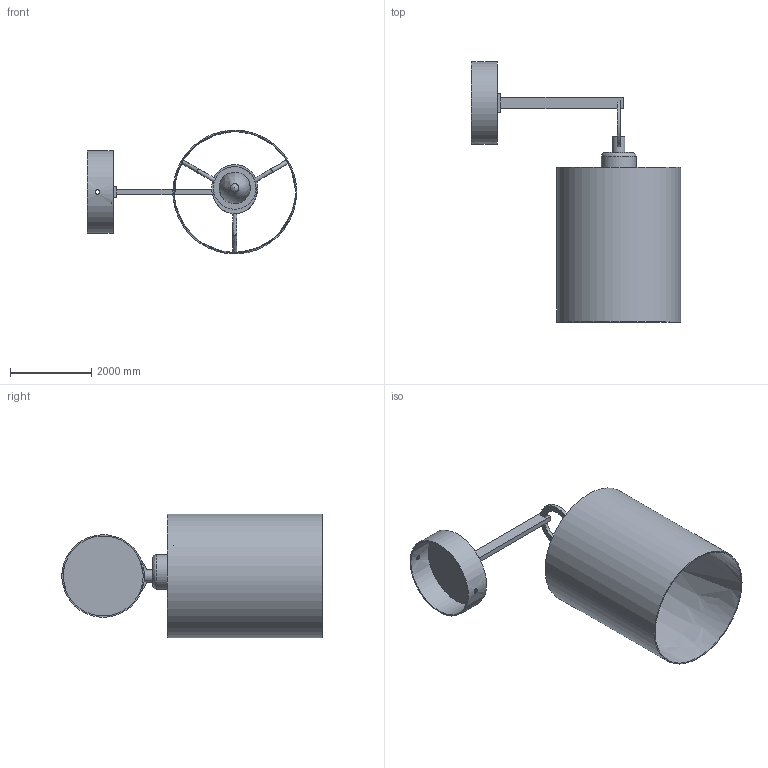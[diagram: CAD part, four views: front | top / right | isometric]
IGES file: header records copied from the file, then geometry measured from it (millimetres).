
Global section: file name: Full Circle Sconce; native system: AutoCAD 2022 - 简体中文 (Simplified Chinese),62HAuto; preprocessor: desk Translation Framework DWG producer (atf_dwg_producer); organization: unknown; date: 20251014.100411; units: inch
Bounding box: 5153.31 x 6407.73 x 3045.8 mm (x, y, z)
Volume: 2093615111.2 mm3; surface area: 112230474.7 mm2
Topology: 13 solids, 13 shells, 83 faces, 197 edges, 141 vertices
Faces by surface type: bspline 83
